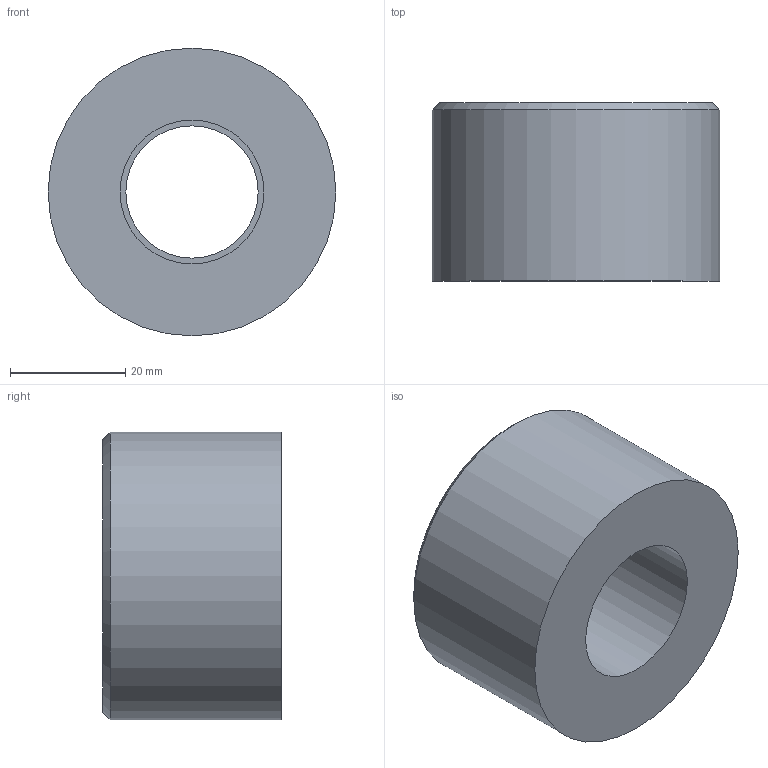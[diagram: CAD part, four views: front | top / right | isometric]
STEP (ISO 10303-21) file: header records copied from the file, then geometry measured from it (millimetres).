
FILE_DESCRIPTION(/* description */ ('PVC riduzione corta incollaggio metrica'),/* implementation_level */ '2;1');
FILE_NAME(/* name */ 'C:\Users\POLYPIPE\Desktop\DATASET INVENTOR\LIBRERIA EFFAST\RACCORDI 3DxWEB\RDR\3D_RDRRCD\3D_RDRRCD050C.stp',/* time_stamp */ '2018-01-19T15:30:11+01:00',/* author */ ('POLYPIPE'),/* organization */ ('Polypipe Italia s.r.l.'),/* preprocessor_version */ 'ST-DEVELOPER v16.1',/* originating_system */ 'Autodesk Inventor 2016',/* authorisation */ '');
FILE_SCHEMA (('CONFIG_CONTROL_DESIGN'));
Length unit declared in the file: millimetre
Products named in the file (1): 3D_RDRRCD
Bounding box: 50 x 31 x 50 mm (x, y, z)
Volume: 44216.6 mm3; surface area: 9970.7 mm2
Topology: 1 solids, 1 shells, 8 faces, 13 edges, 8 vertices
Faces by surface type: plane 3, cylinder 3, cone 2
Full cylindrical faces by diameter (mm): 23 x1, 25 x1, 50 x1
Entity records: 192 total; most frequent: DIRECTION 34, CARTESIAN_POINT 25, AXIS2_PLACEMENT_3D 17, EDGE_LOOP 16, ORIENTED_EDGE 16, FACE_BOUND 8, FACE_OUTER_BOUND 8, CIRCLE 8
